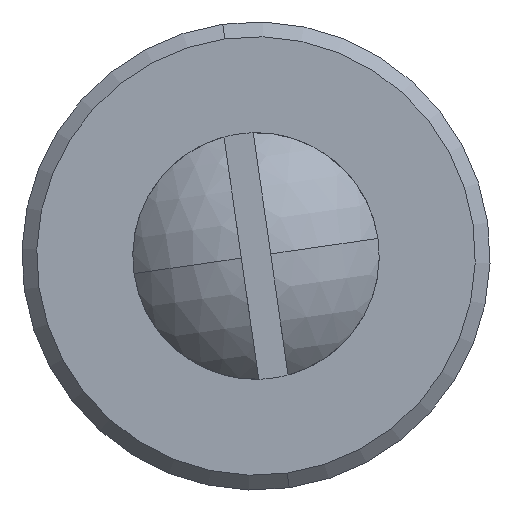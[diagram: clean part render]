
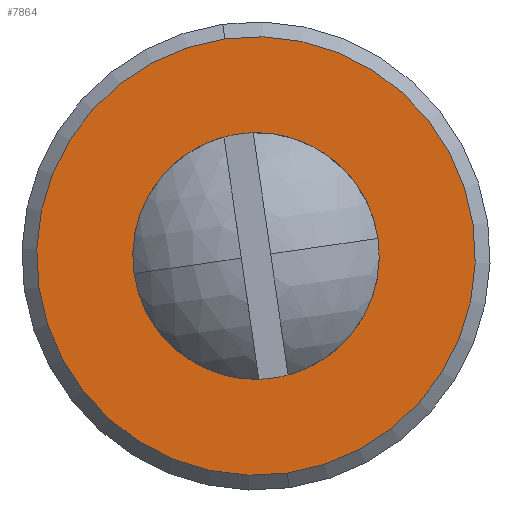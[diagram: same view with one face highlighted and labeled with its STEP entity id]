
A CAD part, left-side view. The second image highlights one B-rep face of the part: STEP entity #7864.
In plain terms, the highlighted planar face has unit normal (-1, 0, 0).
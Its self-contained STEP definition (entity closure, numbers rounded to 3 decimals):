
#317 = DIRECTION ( 'NONE',  ( 0., 0., 1. ) ) ;
#319 = DIRECTION ( 'NONE',  ( -1., 0., 0. ) ) ;
#320 = CARTESIAN_POINT ( 'NONE',  ( 2., 0., 0. ) ) ;
#2260 = ORIENTED_EDGE ( 'NONE', *, *, #5018, .T. ) ;
#2261 = ORIENTED_EDGE ( 'NONE', *, *, #4976, .T. ) ;
#2262 = ORIENTED_EDGE ( 'NONE', *, *, #4762, .F. ) ;
#2263 = ORIENTED_EDGE ( 'NONE', *, *, #4815, .F. ) ;
#2511 = EDGE_LOOP ( 'NONE', ( #2260, #2261 ) ) ;
#2514 = EDGE_LOOP ( 'NONE', ( #2262, #2263 ) ) ;
#3278 = DIRECTION ( 'NONE',  ( 0., 0., 1. ) ) ;
#3318 = CARTESIAN_POINT ( 'NONE',  ( 2., 0., 0. ) ) ;
#3343 = DIRECTION ( 'NONE',  ( -1., 0., 0. ) ) ;
#4680 = AXIS2_PLACEMENT_3D ( 'NONE', #7487, #7481, #7479 ) ;
#4698 = AXIS2_PLACEMENT_3D ( 'NONE', #5102, #5101, #5100 ) ;
#4715 = AXIS2_PLACEMENT_3D ( 'NONE', #5388, #5387, #5386 ) ;
#4762 = EDGE_CURVE ( 'NONE', #7048, #6912, #7005, .T. ) ;
#4783 = AXIS2_PLACEMENT_3D ( 'NONE', #3318, #3343, #3278 ) ;
#4790 = AXIS2_PLACEMENT_3D ( 'NONE', #320, #319, #317 ) ;
#4815 = EDGE_CURVE ( 'NONE', #6912, #7048, #7172, .T. ) ;
#4976 = EDGE_CURVE ( 'NONE', #6266, #6263, #7020, .T. ) ;
#5018 = EDGE_CURVE ( 'NONE', #6263, #6266, #6494, .T. ) ;
#5100 = DIRECTION ( 'NONE',  ( 0., 0., -1. ) ) ;
#5101 = DIRECTION ( 'NONE',  ( -1., 0., 0. ) ) ;
#5102 = CARTESIAN_POINT ( 'NONE',  ( 2., 0., 0. ) ) ;
#5386 = DIRECTION ( 'NONE',  ( 0., 0., -1. ) ) ;
#5387 = DIRECTION ( 'NONE',  ( -1., 0., 0. ) ) ;
#5388 = CARTESIAN_POINT ( 'NONE',  ( 2., 0., 0. ) ) ;
#5746 = FACE_BOUND ( 'NONE', #2514, .T. ) ;
#5864 = FACE_OUTER_BOUND ( 'NONE', #2511, .T. ) ;
#6263 = VERTEX_POINT ( 'NONE', #7758 ) ;
#6266 = VERTEX_POINT ( 'NONE', #7753 ) ;
#6494 = CIRCLE ( 'NONE', #4698, 4.45 ) ;
#6912 = VERTEX_POINT ( 'NONE', #7612 ) ;
#7005 = CIRCLE ( 'NONE', #4790, 2.5 ) ;
#7020 = CIRCLE ( 'NONE', #4715, 4.45 ) ;
#7048 = VERTEX_POINT ( 'NONE', #7589 ) ;
#7172 = CIRCLE ( 'NONE', #4783, 2.5 ) ;
#7479 = DIRECTION ( 'NONE',  ( 0., 0., -1. ) ) ;
#7481 = DIRECTION ( 'NONE',  ( 1., 0., 0. ) ) ;
#7486 = PLANE ( 'NONE',  #4680 ) ;
#7487 = CARTESIAN_POINT ( 'NONE',  ( 2., 2.5, 0. ) ) ;
#7589 = CARTESIAN_POINT ( 'NONE',  ( 2., 0., 2.5 ) ) ;
#7612 = CARTESIAN_POINT ( 'NONE',  ( 2., 0., -2.5 ) ) ;
#7753 = CARTESIAN_POINT ( 'NONE',  ( 2., 0., 4.45 ) ) ;
#7758 = CARTESIAN_POINT ( 'NONE',  ( 2., 0., -4.45 ) ) ;
#7864 = ADVANCED_FACE ( 'NONE', ( #5864, #5746 ), #7486, .F. ) ;
